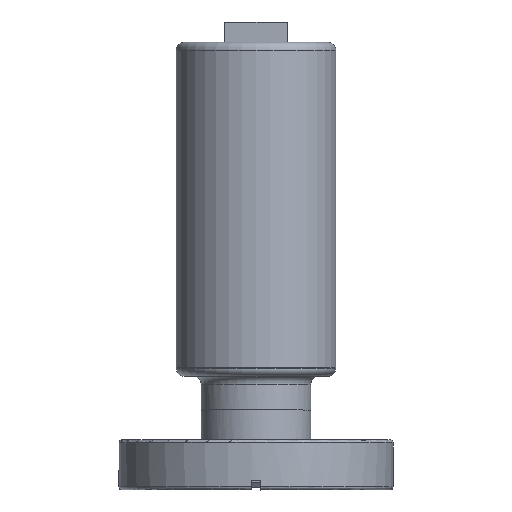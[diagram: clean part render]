
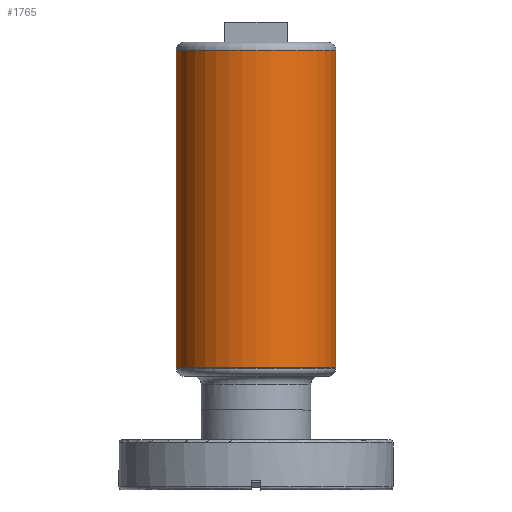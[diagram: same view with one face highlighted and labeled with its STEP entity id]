
A CAD part, top view. The second image highlights one B-rep face of the part: STEP entity #1765.
In plain terms, the highlighted cylindrical face has radius 20.375 mm (diameter 40.75 mm), a full revolution.
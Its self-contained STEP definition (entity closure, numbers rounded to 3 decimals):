
#1738=CARTESIAN_POINT('',(-3.049,19.97,0.0));
#1739=DIRECTION('',(0.,-1.0,0.0));
#1740=DIRECTION('',(0.0,0.0,-1.0));
#1741=AXIS2_PLACEMENT_3D('',#1738,#1739,#1740);
#1742=CYLINDRICAL_SURFACE('',#1741,20.375);
#1743=CARTESIAN_POINT('',(-3.049,-20.48,-20.375));
#1744=VERTEX_POINT('',#1743);
#1745=CARTESIAN_POINT('',(-3.049,-20.48,0.0));
#1746=DIRECTION('',(0.0,-1.0,0.0));
#1747=DIRECTION('',(0.0,0.0,-1.0));
#1748=AXIS2_PLACEMENT_3D('',#1745,#1746,#1747);
#1749=CIRCLE('',#1748,20.375);
#1750=EDGE_CURVE('',#1744,#1744,#1749,.T.);
#1751=ORIENTED_EDGE('',*,*,#1750,.F.);
#1752=EDGE_LOOP('',(#1751));
#1753=FACE_OUTER_BOUND('',#1752,.T.);
#1754=CARTESIAN_POINT('',(-3.049,60.42,-20.375));
#1755=VERTEX_POINT('',#1754);
#1756=CARTESIAN_POINT('',(-3.049,60.42,0.0));
#1757=DIRECTION('',(0.0,-1.0,0.0));
#1758=DIRECTION('',(0.0,0.0,-1.0));
#1759=AXIS2_PLACEMENT_3D('',#1756,#1757,#1758);
#1760=CIRCLE('',#1759,20.375);
#1761=EDGE_CURVE('',#1755,#1755,#1760,.T.);
#1762=ORIENTED_EDGE('',*,*,#1761,.T.);
#1763=EDGE_LOOP('',(#1762));
#1764=FACE_BOUND('',#1763,.T.);
#1765=ADVANCED_FACE('',(#1753,#1764),#1742,.T.);
